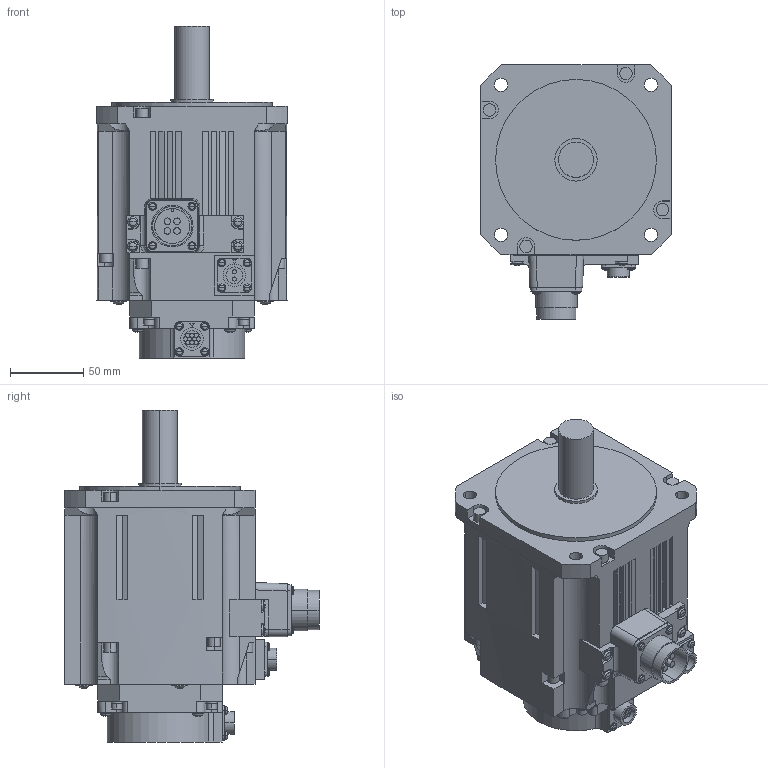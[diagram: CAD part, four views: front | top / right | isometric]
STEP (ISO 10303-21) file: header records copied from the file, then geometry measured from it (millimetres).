
FILE_DESCRIPTION((''),'2;1');
FILE_NAME('HK-ST172WB_','2019-01-17T',('XE90682'),(''),'CREO PARAMETRIC BY PTC INC, 2016380','CREO PARAMETRIC BY PTC INC, 2016380','');
FILE_SCHEMA(('CONFIG_CONTROL_DESIGN'));
Length unit declared in the file: millimetre
Products named in the file (1): HK-ST172WB_
Bounding box: 130 x 173.8 x 227 mm (x, y, z)
Volume: 2279815.6 mm3; surface area: 138073.2 mm2
Topology: 1 solids, 1 shells, 624 faces, 1534 edges, 968 vertices
Faces by surface type: plane 305, cylinder 223, sphere 46, torus 40, cone 8, bspline 2
Entity records: 19078 total; most frequent: CARTESIAN_POINT 4008, DIRECTION 3306, ORIENTED_EDGE 2988, EDGE_CURVE 1494, AXIS2_PLACEMENT_3D 1234, VERTEX_POINT 968, VECTOR 838, LINE 838
